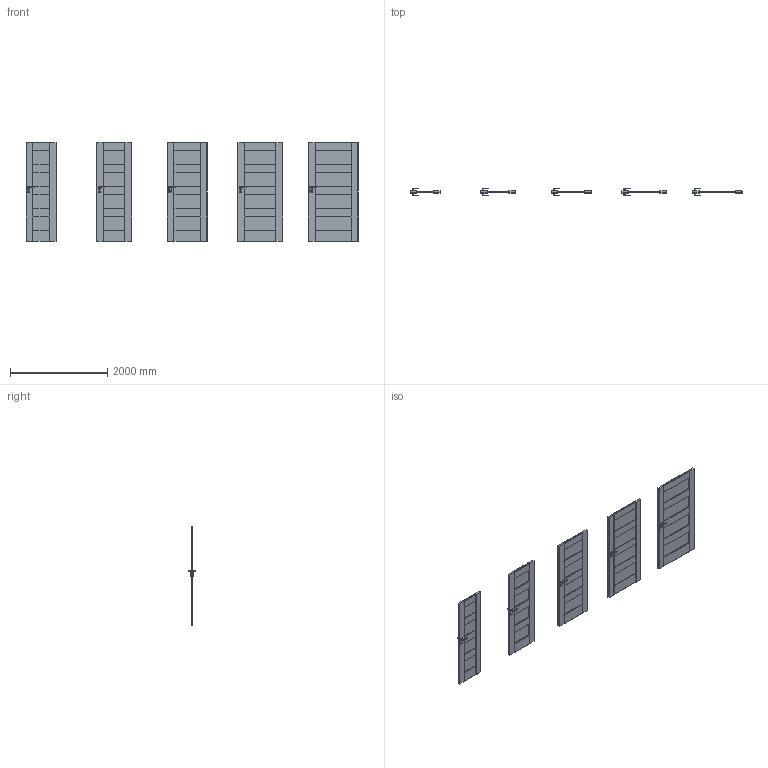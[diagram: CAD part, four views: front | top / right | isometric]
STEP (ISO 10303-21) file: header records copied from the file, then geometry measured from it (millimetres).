
FILE_DESCRIPTION(/* description */ (''),/* implementation_level */ '2;1');
FILE_NAME(/* name */ '049812_A_2-Skrzydło Verte Premium model A polska norma _PN__ bezprzylgowe..stp',/* time_stamp */ '2024-08-22T11:01:44+02:00',/* author */ (''),/* organization */ (''),/* preprocessor_version */ 'ST-DEVELOPER v16',/* originating_system */ 'SIEMENS PLM Software NX 11.0',/* authorisation */ '');
FILE_SCHEMA (('AUTOMOTIVE_DESIGN { 1 0 10303 214 3 1 1 1 }'));
Length unit declared in the file: millimetre
Products named in the file (1): bkni14D42E8Dlyuw
Bounding box: 6818 x 153.13 x 2017.02 mm (x, y, z)
Volume: 215495840 mm3; surface area: 18853883.7 mm2
Topology: 25 solids, 30 shells, 1735 faces, 4520 edges, 2750 vertices
Faces by surface type: plane 860, cylinder 575, bspline 160, sphere 140
Entity records: 57816 total; most frequent: CARTESIAN_POINT 16297, ORIENTED_EDGE 8760, DIRECTION 8475, EDGE_CURVE 4380, AXIS2_PLACEMENT_3D 2895, VERTEX_POINT 2750, LINE 2685, VECTOR 2685
